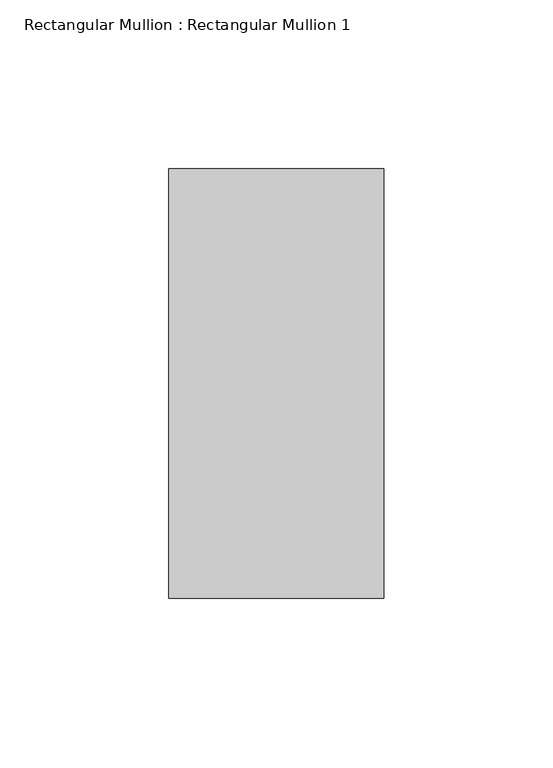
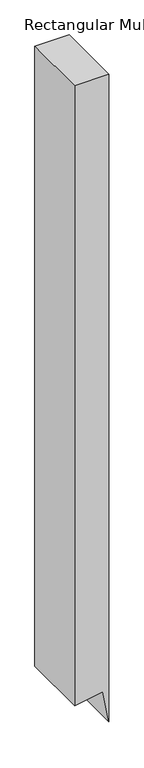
"""IFC4 building model written with IfcOpenShell, lengths in millimetres: member geometry, Rectangular Mullion : Rectangular Mullion 1."""

from ifc_helpers import new_model, si_unit, frame, origin, place, context, project, spatial, polyline, outline, extrude, source, transform, mapped, element, save


def rectangular_mullion_rectangular_mullion_1_5e4cd11c(model_context):
    return source(origin(), model_context, "Body", "SweptSolid", [
        extrude(outline(polyline([(0.0, 0.0), (0.0, -63.5), (-1211.8067266, -63.5), (-1202.5542608, -11.0266593), (-1265.0895531, 0.0), (0.0, 0.0)])), frame((0.0, -63.5, 0.0), z_axis=(0.0, 1.0, 0.0), x_axis=(0.0, 0.0, 1.0)), (0.0, 0.0, 1.0), 127.0),
    ])


if __name__ == "__main__":
    model = new_model("IFC4")
    model_context = context("Model", 3, world=origin())
    ifc_project = project(units=[si_unit("LENGTHUNIT", "METRE", prefix="MILLI")], contexts=[model_context])
    site = spatial("IfcSite", under=ifc_project)
    building = spatial("IfcBuilding", under=site)
    placement = place(None, origin())
    rectangular_mullion_rectangular_mullion_1_shape = rectangular_mullion_rectangular_mullion_1_5e4cd11c(model_context)
    element("IfcMember", 1, ObjectType="Rectangular Mullion : Rectangular Mullion 1", at=placement, inside=building, context=model_context, shape_type="MappedRepresentation", body=[
        mapped(rectangular_mullion_rectangular_mullion_1_shape, transform((0.0, 0.0, 0.0), x_axis=(1.0, 0.0, 0.0), y_axis=(0.0, 1.0, 0.0), z_axis=(0.0, 0.0, 1.0))),
    ])
    save(model, "model.ifc")
